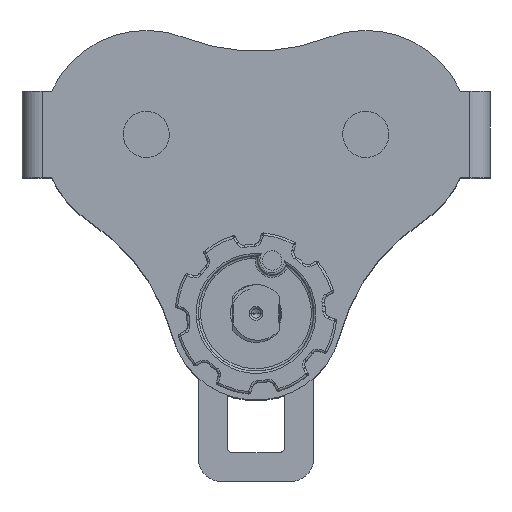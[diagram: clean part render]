
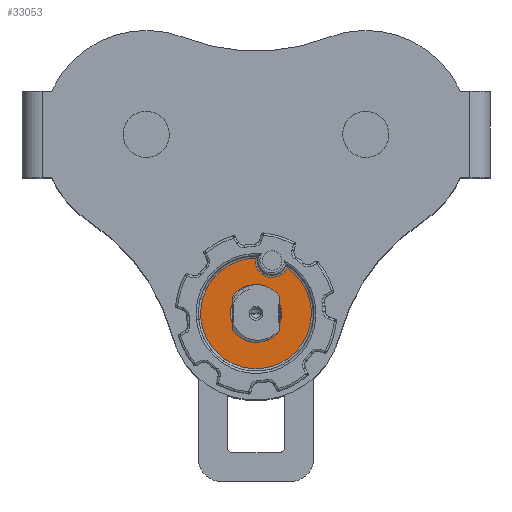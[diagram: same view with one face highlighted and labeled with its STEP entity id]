
A CAD part, top view. The second image highlights one B-rep face of the part: STEP entity #33053.
In plain terms, the highlighted planar face has unit normal (0, 0, 1).
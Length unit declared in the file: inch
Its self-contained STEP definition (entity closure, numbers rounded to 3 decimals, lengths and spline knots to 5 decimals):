
#1654 = VERTEX_POINT ( 'NONE', #156597 ) ;
#4854 = ORIENTED_EDGE ( 'NONE', *, *, #301775, .F. ) ;
#14105 = VERTEX_POINT ( 'NONE', #275523 ) ;
#15640 = CARTESIAN_POINT ( 'NONE',  ( -0.5547, 0., 0.375 ) ) ;
#20507 = CIRCLE ( 'NONE', #323123, 0.3665 ) ;
#29348 = EDGE_CURVE ( 'NONE', #1654, #323310, #208889, .T. ) ;
#33053 = ADVANCED_FACE ( 'NONE', ( #255432, #144211 ), #36632, .T. ) ;
#33757 = DIRECTION ( 'NONE',  ( 1., 0., 0. ) ) ;
#36632 = PLANE ( 'NONE',  #149336 ) ;
#37133 = DIRECTION ( 'NONE',  ( 1., 0., 0. ) ) ;
#38935 = CARTESIAN_POINT ( 'NONE',  ( 0., 0., 0.375 ) ) ;
#64059 = DIRECTION ( 'NONE',  ( 1., 0., 0. ) ) ;
#66306 = AXIS2_PLACEMENT_3D ( 'NONE', #134314, #216422, #300195 ) ;
#66528 = CIRCLE ( 'NONE', #83924, 1.196 ) ;
#66539 = CARTESIAN_POINT ( 'NONE',  ( 0., 0., 0.375 ) ) ;
#68256 = CARTESIAN_POINT ( 'NONE',  ( 0., 0., 0.375 ) ) ;
#77247 = CARTESIAN_POINT ( 'NONE',  ( 1.196, 0., 0.375 ) ) ;
#83924 = AXIS2_PLACEMENT_3D ( 'NONE', #38935, #319604, #37133 ) ;
#87272 = CARTESIAN_POINT ( 'NONE',  ( 0.10224, 1.19162, 0.375 ) ) ;
#94804 = EDGE_CURVE ( 'NONE', #14105, #114083, #352489, .T. ) ;
#95017 = DIRECTION ( 'NONE',  ( 0., 0., 1. ) ) ;
#114083 = VERTEX_POINT ( 'NONE', #15640 ) ;
#120623 = CIRCLE ( 'NONE', #155526, 1.196 ) ;
#127668 = CARTESIAN_POINT ( 'NONE',  ( 0., 0., 0.375 ) ) ;
#134314 = CARTESIAN_POINT ( 'NONE',  ( 0., 0., 0.375 ) ) ;
#135415 = ORIENTED_EDGE ( 'NONE', *, *, #279631, .T. ) ;
#144211 = FACE_OUTER_BOUND ( 'NONE', #213627, .T. ) ;
#144719 = VERTEX_POINT ( 'NONE', #87272 ) ;
#149336 = AXIS2_PLACEMENT_3D ( 'NONE', #127668, #238911, #326298 ) ;
#155526 = AXIS2_PLACEMENT_3D ( 'NONE', #346537, #95017, #64059 ) ;
#156597 = CARTESIAN_POINT ( 'NONE',  ( -1.196, 0., 0.375 ) ) ;
#171138 = CIRCLE ( 'NONE', #66306, 0.5547 ) ;
#173857 = DIRECTION ( 'NONE',  ( 0., 0., -1. ) ) ;
#176195 = ORIENTED_EDGE ( 'NONE', *, *, #266207, .T. ) ;
#189633 = AXIS2_PLACEMENT_3D ( 'NONE', #68256, #310731, #257897 ) ;
#191170 = EDGE_CURVE ( 'NONE', #144719, #1654, #120623, .T. ) ;
#208889 = CIRCLE ( 'NONE', #307663, 1.196 ) ;
#213627 = EDGE_LOOP ( 'NONE', ( #322518, #319193, #135415, #176195 ) ) ;
#216422 = DIRECTION ( 'NONE',  ( 0., 0., 1. ) ) ;
#231722 = ORIENTED_EDGE ( 'NONE', *, *, #94804, .F. ) ;
#232196 = DIRECTION ( 'NONE',  ( 1., 0., 0. ) ) ;
#238911 = DIRECTION ( 'NONE',  ( 0., 0., 1. ) ) ;
#255432 = FACE_BOUND ( 'NONE', #311961, .T. ) ;
#257897 = DIRECTION ( 'NONE',  ( 1., 0., 0. ) ) ;
#260792 = VERTEX_POINT ( 'NONE', #350915 ) ;
#266207 = EDGE_CURVE ( 'NONE', #260792, #144719, #20507, .T. ) ;
#275523 = CARTESIAN_POINT ( 'NONE',  ( 0.5547, 0., 0.375 ) ) ;
#279631 = EDGE_CURVE ( 'NONE', #323310, #260792, #66528, .T. ) ;
#300195 = DIRECTION ( 'NONE',  ( 1., 0., 0. ) ) ;
#301775 = EDGE_CURVE ( 'NONE', #114083, #14105, #171138, .T. ) ;
#307663 = AXIS2_PLACEMENT_3D ( 'NONE', #66539, #336395, #33757 ) ;
#310731 = DIRECTION ( 'NONE',  ( 0., 0., 1. ) ) ;
#311961 = EDGE_LOOP ( 'NONE', ( #4854, #231722 ) ) ;
#319193 = ORIENTED_EDGE ( 'NONE', *, *, #29348, .T. ) ;
#319604 = DIRECTION ( 'NONE',  ( 0., 0., 1. ) ) ;
#322518 = ORIENTED_EDGE ( 'NONE', *, *, #191170, .T. ) ;
#323123 = AXIS2_PLACEMENT_3D ( 'NONE', #336135, #173857, #232196 ) ;
#323310 = VERTEX_POINT ( 'NONE', #77247 ) ;
#326298 = DIRECTION ( 'NONE',  ( 1., 0., 0. ) ) ;
#336135 = CARTESIAN_POINT ( 'NONE',  ( 0.45922, 1.10866, 0.375 ) ) ;
#336395 = DIRECTION ( 'NONE',  ( 0., 0., 1. ) ) ;
#346537 = CARTESIAN_POINT ( 'NONE',  ( 0., 0., 0.375 ) ) ;
#350915 = CARTESIAN_POINT ( 'NONE',  ( 0.77031, 0.9149, 0.375 ) ) ;
#352489 = CIRCLE ( 'NONE', #189633, 0.5547 ) ;
